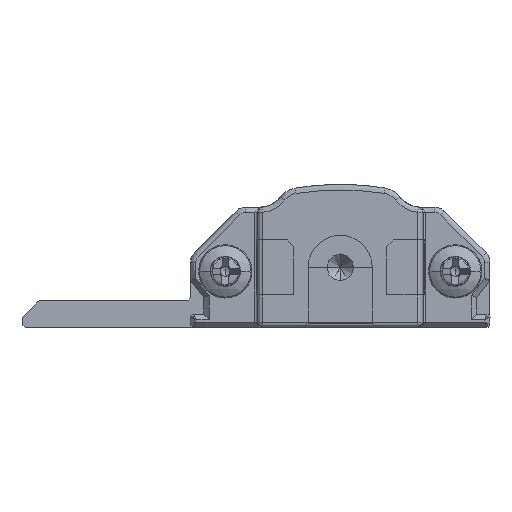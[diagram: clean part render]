
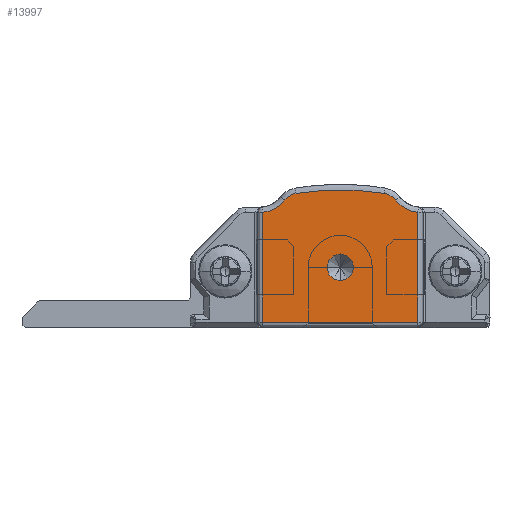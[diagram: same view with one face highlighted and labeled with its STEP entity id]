
A CAD part, front view. The second image highlights one B-rep face of the part: STEP entity #13997.
In plain terms, the highlighted planar face has unit normal (0, -1, 0).
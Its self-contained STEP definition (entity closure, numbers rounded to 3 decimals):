
#366 = CARTESIAN_POINT ( 'NONE',  ( 11.2, -15., 4.5 ) ) ;
#931 = CIRCLE ( 'NONE', #4937, 1.3 ) ;
#1150 = VERTEX_POINT ( 'NONE', #30276 ) ;
#2298 = CARTESIAN_POINT ( 'NONE',  ( 17., -15., 8.612 ) ) ;
#2302 = ORIENTED_EDGE ( 'NONE', *, *, #11179, .F. ) ;
#2355 = DIRECTION ( 'NONE',  ( 0., 0., -1. ) ) ;
#2685 = DIRECTION ( 'NONE',  ( 0., 0., -1. ) ) ;
#2687 = VECTOR ( 'NONE', #9207, 1000. ) ;
#3653 = EDGE_CURVE ( 'NONE', #23732, #15162, #10832, .T. ) ;
#3754 = EDGE_CURVE ( 'NONE', #8001, #23732, #11445, .T. ) ;
#3788 = FACE_BOUND ( 'NONE', #28813, .T. ) ;
#4078 = AXIS2_PLACEMENT_3D ( 'NONE', #6926, #9171, #2355 ) ;
#4256 = VECTOR ( 'NONE', #2685, 1000. ) ;
#4264 = ORIENTED_EDGE ( 'NONE', *, *, #30881, .T. ) ;
#4937 = AXIS2_PLACEMENT_3D ( 'NONE', #28148, #30836, #12948 ) ;
#5287 = ORIENTED_EDGE ( 'NONE', *, *, #6169, .T. ) ;
#5645 = CARTESIAN_POINT ( 'NONE',  ( 15.332, -15., 9.541 ) ) ;
#6169 = EDGE_CURVE ( 'NONE', #13661, #19525, #11329, .T. ) ;
#6926 = CARTESIAN_POINT ( 'NONE',  ( 22.15, -15., 3.606 ) ) ;
#6999 = CARTESIAN_POINT ( 'NONE',  ( 17., -15., 0.4 ) ) ;
#7375 = ORIENTED_EDGE ( 'NONE', *, *, #16119, .T. ) ;
#7801 = DIRECTION ( 'NONE',  ( 0., 0., -1. ) ) ;
#8001 = VERTEX_POINT ( 'NONE', #13657 ) ;
#8220 = CIRCLE ( 'NONE', #29538, 2.4 ) ;
#8510 = CIRCLE ( 'NONE', #13610, 1. ) ;
#9171 = DIRECTION ( 'NONE',  ( 0., -1., 0. ) ) ;
#9207 = DIRECTION ( 'NONE',  ( 1., 0., 0. ) ) ;
#10030 = CARTESIAN_POINT ( 'NONE',  ( 5.162, -15., 11. ) ) ;
#10191 = DIRECTION ( 'NONE',  ( 0., 1., 0. ) ) ;
#10201 = AXIS2_PLACEMENT_3D ( 'NONE', #23944, #30876, #21526 ) ;
#10677 = DIRECTION ( 'NONE',  ( 0., 0., -1. ) ) ;
#10832 = LINE ( 'NONE', #20547, #23103 ) ;
#10842 = AXIS2_PLACEMENT_3D ( 'NONE', #10030, #10191, #7801 ) ;
#11179 = EDGE_CURVE ( 'NONE', #25731, #21380, #8510, .T. ) ;
#11204 = CIRCLE ( 'NONE', #10201, 1. ) ;
#11329 = CIRCLE ( 'NONE', #10842, 2.4 ) ;
#11394 = ORIENTED_EDGE ( 'NONE', *, *, #3754, .T. ) ;
#11445 = LINE ( 'NONE', #21156, #2687 ) ;
#11555 = ORIENTED_EDGE ( 'NONE', *, *, #29544, .T. ) ;
#11775 = DIRECTION ( 'NONE',  ( 0., -1., 0. ) ) ;
#12248 = CARTESIAN_POINT ( 'NONE',  ( 7.892, -15., 10.034 ) ) ;
#12256 = DIRECTION ( 'NONE',  ( 0., 0., -1. ) ) ;
#12901 = DIRECTION ( 'NONE',  ( 0., 0., 1. ) ) ;
#12948 = DIRECTION ( 'NONE',  ( 0., 0., -1. ) ) ;
#13493 = PLANE ( 'NONE',  #4078 ) ;
#13610 = AXIS2_PLACEMENT_3D ( 'NONE', #366, #11775, #12256 ) ;
#13657 = CARTESIAN_POINT ( 'NONE',  ( 5.4, -15., 0.4 ) ) ;
#13661 = VERTEX_POINT ( 'NONE', #23051 ) ;
#13668 = EDGE_LOOP ( 'NONE', ( #15578, #7375, #4264, #11555, #14049, #5287, #19975, #11394 ) ) ;
#13970 = DIRECTION ( 'NONE',  ( 0., 0., -1. ) ) ;
#13997 = ADVANCED_FACE ( 'NONE', ( #25582, #3788 ), #13493, .T. ) ;
#14049 = ORIENTED_EDGE ( 'NONE', *, *, #20181, .T. ) ;
#15162 = VERTEX_POINT ( 'NONE', #2298 ) ;
#15179 = EDGE_CURVE ( 'NONE', #21380, #25731, #11204, .T. ) ;
#15578 = ORIENTED_EDGE ( 'NONE', *, *, #3653, .T. ) ;
#15624 = VERTEX_POINT ( 'NONE', #12248 ) ;
#15797 = CIRCLE ( 'NONE', #19362, 1.3 ) ;
#16119 = EDGE_CURVE ( 'NONE', #15162, #30660, #8220, .T. ) ;
#16272 = LINE ( 'NONE', #24505, #4256 ) ;
#16632 = CARTESIAN_POINT ( 'NONE',  ( 17.238, -15., 11. ) ) ;
#18899 = CARTESIAN_POINT ( 'NONE',  ( 11.2, -15., -10.376 ) ) ;
#19067 = AXIS2_PLACEMENT_3D ( 'NONE', #18899, #21291, #13970 ) ;
#19362 = AXIS2_PLACEMENT_3D ( 'NONE', #25478, #27522, #10677 ) ;
#19525 = VERTEX_POINT ( 'NONE', #21643 ) ;
#19975 = ORIENTED_EDGE ( 'NONE', *, *, #25543, .T. ) ;
#20181 = EDGE_CURVE ( 'NONE', #15624, #13661, #15797, .T. ) ;
#20547 = CARTESIAN_POINT ( 'NONE',  ( 17., -15., 8.612 ) ) ;
#21156 = CARTESIAN_POINT ( 'NONE',  ( 17., -15., 0.4 ) ) ;
#21255 = DIRECTION ( 'NONE',  ( 0., 0., -1. ) ) ;
#21291 = DIRECTION ( 'NONE',  ( 0., -1., 0. ) ) ;
#21380 = VERTEX_POINT ( 'NONE', #29974 ) ;
#21526 = DIRECTION ( 'NONE',  ( 0., 0., -1. ) ) ;
#21643 = CARTESIAN_POINT ( 'NONE',  ( 5.4, -15., 8.612 ) ) ;
#23051 = CARTESIAN_POINT ( 'NONE',  ( 7.068, -15., 9.541 ) ) ;
#23103 = VECTOR ( 'NONE', #12901, 1000. ) ;
#23732 = VERTEX_POINT ( 'NONE', #6999 ) ;
#23944 = CARTESIAN_POINT ( 'NONE',  ( 11.2, -15., 4.5 ) ) ;
#24505 = CARTESIAN_POINT ( 'NONE',  ( 5.4, -15., 0.4 ) ) ;
#25478 = CARTESIAN_POINT ( 'NONE',  ( 8.1, -15., 8.75 ) ) ;
#25543 = EDGE_CURVE ( 'NONE', #19525, #8001, #16272, .T. ) ;
#25582 = FACE_OUTER_BOUND ( 'NONE', #13668, .T. ) ;
#25731 = VERTEX_POINT ( 'NONE', #26822 ) ;
#26822 = CARTESIAN_POINT ( 'NONE',  ( 11.2, -15., 3.5 ) ) ;
#27522 = DIRECTION ( 'NONE',  ( 0., -1., 0. ) ) ;
#28148 = CARTESIAN_POINT ( 'NONE',  ( 14.3, -15., 8.75 ) ) ;
#28813 = EDGE_LOOP ( 'NONE', ( #2302, #30458 ) ) ;
#29169 = CIRCLE ( 'NONE', #19067, 20.676 ) ;
#29538 = AXIS2_PLACEMENT_3D ( 'NONE', #16632, #30613, #21255 ) ;
#29544 = EDGE_CURVE ( 'NONE', #1150, #15624, #29169, .T. ) ;
#29974 = CARTESIAN_POINT ( 'NONE',  ( 11.2, -15., 5.5 ) ) ;
#30276 = CARTESIAN_POINT ( 'NONE',  ( 14.508, -15., 10.034 ) ) ;
#30458 = ORIENTED_EDGE ( 'NONE', *, *, #15179, .F. ) ;
#30613 = DIRECTION ( 'NONE',  ( 0., 1., 0. ) ) ;
#30660 = VERTEX_POINT ( 'NONE', #5645 ) ;
#30836 = DIRECTION ( 'NONE',  ( 0., -1., 0. ) ) ;
#30876 = DIRECTION ( 'NONE',  ( 0., -1., 0. ) ) ;
#30881 = EDGE_CURVE ( 'NONE', #30660, #1150, #931, .T. ) ;
